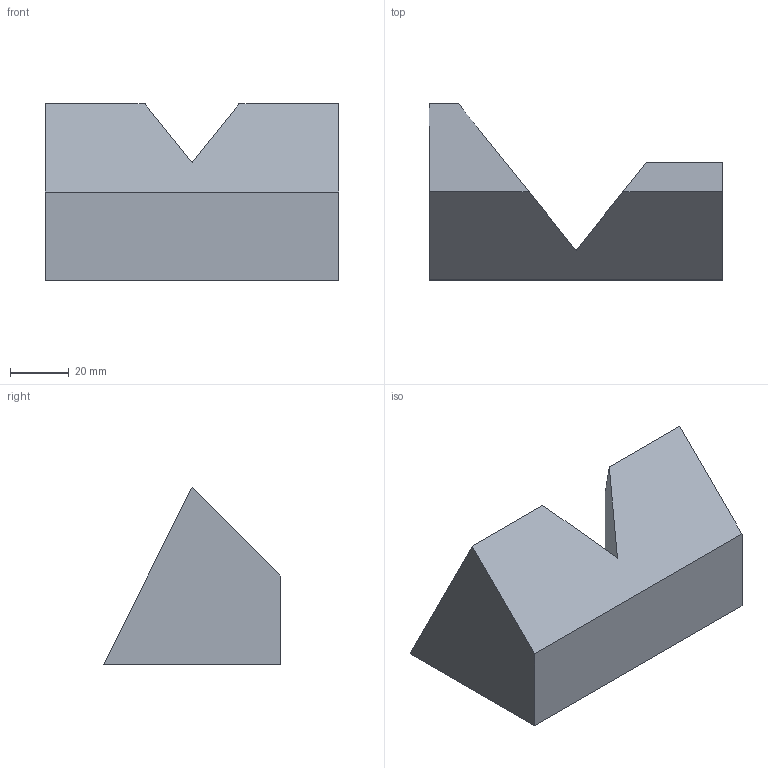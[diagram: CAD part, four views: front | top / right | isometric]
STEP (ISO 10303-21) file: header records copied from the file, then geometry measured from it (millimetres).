
FILE_DESCRIPTION(/* description */ (''),/* implementation_level */ '2;1');
FILE_NAME(/* time_stamp */ '2020-06-16T15:00:42+01:00',/* author */ ('DesignClass.co.uk'),/* originating_system */ 'Solidworks 2021',/* authorisation */ '');
FILE_SCHEMA (('AUTOMOTIVE_DESIGN { 1 0 10303 214 3 1 1 }'));
Length unit declared in the file: millimetre
Products named in the file (1): Task_7
Bounding box: 100 x 60 x 60 mm (x, y, z)
Volume: 156466.7 mm3; surface area: 22070.8 mm2
Topology: 1 solids, 1 shells, 10 faces, 24 edges, 16 vertices
Faces by surface type: plane 10
Entity records: 329 total; most frequent: CARTESIAN_POINT 51, ORIENTED_EDGE 48, DIRECTION 46, LINE 24, VECTOR 24, EDGE_CURVE 24, VERTEX_POINT 16, AXIS2_PLACEMENT_3D 11
